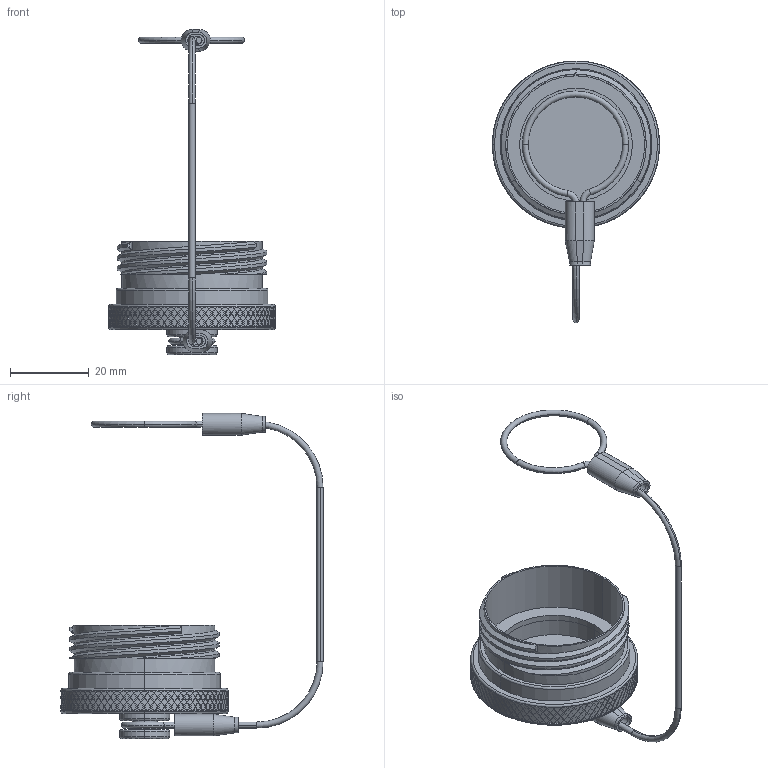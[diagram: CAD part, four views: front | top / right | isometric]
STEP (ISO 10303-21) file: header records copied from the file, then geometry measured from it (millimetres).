
FILE_DESCRIPTION (( 'STEP AP214' ), '1' );
FILE_NAME ('Q38DC-PGX-23-R2.STEP', '2026-04-22T18:26:48', ( '' ), ( '' ), 'SwSTEP 2.0', 'SolidWorks 2024', '' );
FILE_SCHEMA (( 'AUTOMOTIVE_DESIGN' ));
Length unit declared in the file: inch
Products named in the file (7): Q38-XX28-X_Q38-2328; LN-06-07-XX-Q38eb_Plug; Q38-XX29-P_23P; SW-003; Q38DC-PGX-23-R2; HEAT SHRINK_HS-250X625; Lanyard Assembly Q38_PLUG
Assembly tree (8 placements, depth 3):
  Q38DC-PGX-23-R2
    Q38-XX28-X_Q38-2328
    Lanyard Assembly Q38_PLUG
      LN-06-07-XX-Q38eb_Plug
      SW-003  x2
      HEAT SHRINK_HS-250X625  x2
    Q38-XX29-P_23P
Bounding box: 42.34 x 66.38 x 82.38 mm (x, y, z)
Volume: 11479.2 mm3; surface area: 12604.3 mm2
Topology: 7 solids, 7 shells, 2076 faces, 4985 edges, 3301 vertices
Faces by surface type: plane 1572, cylinder 453, torus 34, bspline 17
Entity records: 60420 total; most frequent: CARTESIAN_POINT 20315, ORIENTED_EDGE 9822, DIRECTION 6669, EDGE_CURVE 4911, VERTEX_POINT 3257, AXIS2_PLACEMENT_3D 2518, EDGE_LOOP 2426, ADVANCED_FACE 2042
